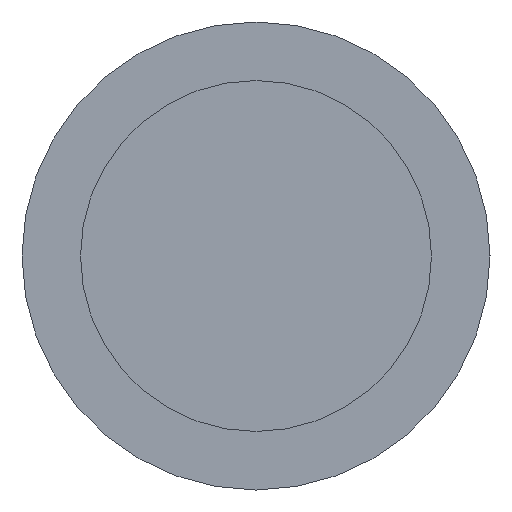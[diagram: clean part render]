
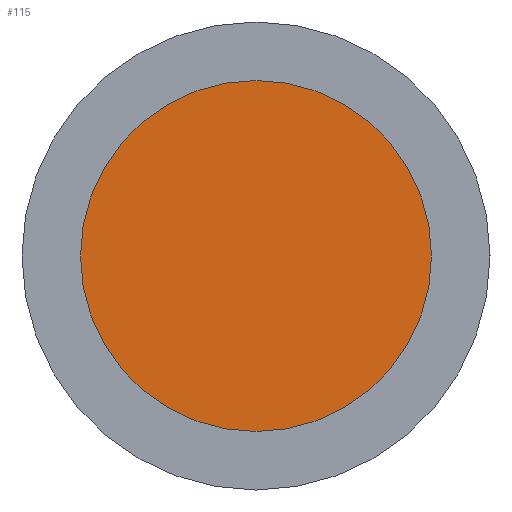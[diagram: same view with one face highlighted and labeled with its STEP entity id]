
A CAD part, left-side view. The second image highlights one B-rep face of the part: STEP entity #115.
In plain terms, the highlighted planar face has unit normal (-1, 0, 0).
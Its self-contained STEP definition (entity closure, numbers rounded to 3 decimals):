
#23=ORIENTED_EDGE('',*,*,#33,.F.);
#33=EDGE_CURVE('',#38,#38,#43,.T.);
#38=VERTEX_POINT('',#164);
#43=CIRCLE('',#127,1.5);
#48=EDGE_LOOP('',(#23));
#58=FACE_BOUND('',#48,.T.);
#68=PLANE('',#126);
#115=ADVANCED_FACE('',(#58),#68,.F.);
#126=AXIS2_PLACEMENT_3D('',#162,#139,#140);
#127=AXIS2_PLACEMENT_3D('',#163,#141,#142);
#139=DIRECTION('',(1.,0.,0.));
#140=DIRECTION('',(0.,0.,-1.));
#141=DIRECTION('',(1.,0.,0.));
#142=DIRECTION('',(0.,0.,-1.));
#162=CARTESIAN_POINT('',(-14.,0.,0.));
#163=CARTESIAN_POINT('',(-14.,0.,0.));
#164=CARTESIAN_POINT('',(-14.,0.,-1.5));
